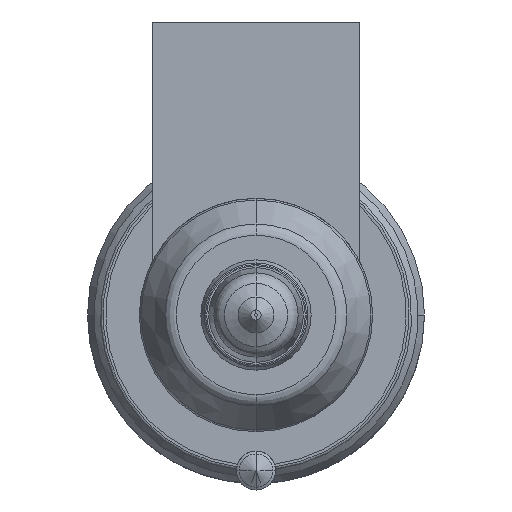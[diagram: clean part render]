
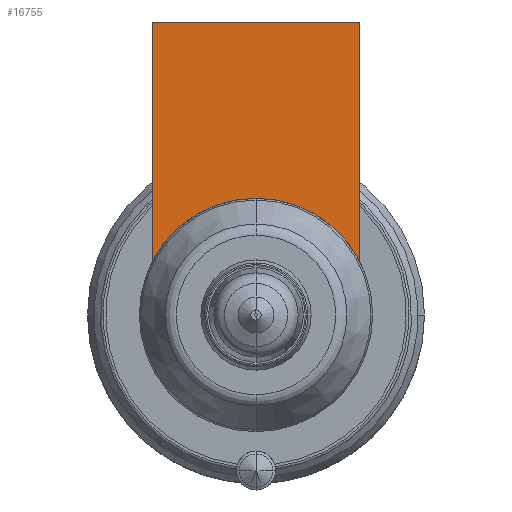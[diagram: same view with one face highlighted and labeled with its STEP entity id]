
A CAD part, front view. The second image highlights one B-rep face of the part: STEP entity #16755.
In plain terms, the highlighted planar face has unit normal (0, -1, 0).
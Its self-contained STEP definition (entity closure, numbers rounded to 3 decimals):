
#15114=DIRECTION('',(0.,0.,-1.));
#15115=VECTOR('',#15114,18.481);
#15116=CARTESIAN_POINT('',(-8.,-54.,22.604));
#15117=LINE('',#15116,#15115);
#15742=CARTESIAN_POINT('',(0.,-54.,0.));
#15743=DIRECTION('',(0.,-1.,0.));
#15744=DIRECTION('',(0.,0.,1.));
#15745=AXIS2_PLACEMENT_3D('',#15742,#15743,#15744);
#15750=DIRECTION('',(1.,0.,0.));
#15751=VECTOR('',#15750,16.);
#15752=CARTESIAN_POINT('',(-8.,-54.,22.604));
#15753=LINE('',#15752,#15751);
#15757=CARTESIAN_POINT('',(0.,-54.,0.));
#15758=DIRECTION('',(0.,-1.,0.));
#15759=DIRECTION('',(0.889,0.,0.458));
#15760=AXIS2_PLACEMENT_3D('',#15757,#15758,#15759);
#15843=DIRECTION('',(0.,0.,-1.));
#15844=VECTOR('',#15843,18.481);
#15845=CARTESIAN_POINT('',(8.,-54.,22.604));
#15846=LINE('',#15845,#15844);
#15952=CARTESIAN_POINT('',(-8.,-54.,22.604));
#15953=VERTEX_POINT('',#15952);
#15958=CARTESIAN_POINT('',(8.,-54.,22.604));
#15959=VERTEX_POINT('',#15958);
#15961=CARTESIAN_POINT('',(-8.,-54.,4.123));
#15963=VERTEX_POINT('',#15961);
#15965=CARTESIAN_POINT('',(8.,-54.,4.123));
#15967=VERTEX_POINT('',#15965);
#15968=CARTESIAN_POINT('',(0.,-54.,9.));
#15969=VERTEX_POINT('',#15968);
#16741=CARTESIAN_POINT('',(-8.,-54.,22.604));
#16742=DIRECTION('',(0.,-1.,0.));
#16743=DIRECTION('',(0.,0.,-1.));
#16744=AXIS2_PLACEMENT_3D('',#16741,#16742,#16743);
#16745=PLANE('',#16744);
#16746=ORIENTED_EDGE('',*,*,#16009,.T.);
#16747=ORIENTED_EDGE('',*,*,#15992,.F.);
#16749=ORIENTED_EDGE('',*,*,#16748,.T.);
#16751=ORIENTED_EDGE('',*,*,#16750,.T.);
#16752=ORIENTED_EDGE('',*,*,#16057,.T.);
#16753=EDGE_LOOP('',(#16746,#16747,#16749,#16751,#16752));
#16754=FACE_OUTER_BOUND('',#16753,.F.);
#16755=ADVANCED_FACE('',(#16754),#16745,.T.);
#15746=CIRCLE('',#15745,9.);
#15761=CIRCLE('',#15760,9.);
#15992=EDGE_CURVE('',#15953,#15963,#15117,.T.);
#16009=EDGE_CURVE('',#15969,#15963,#15746,.T.);
#16057=EDGE_CURVE('',#15967,#15969,#15761,.T.);
#16748=EDGE_CURVE('',#15953,#15959,#15753,.T.);
#16750=EDGE_CURVE('',#15959,#15967,#15846,.T.);
